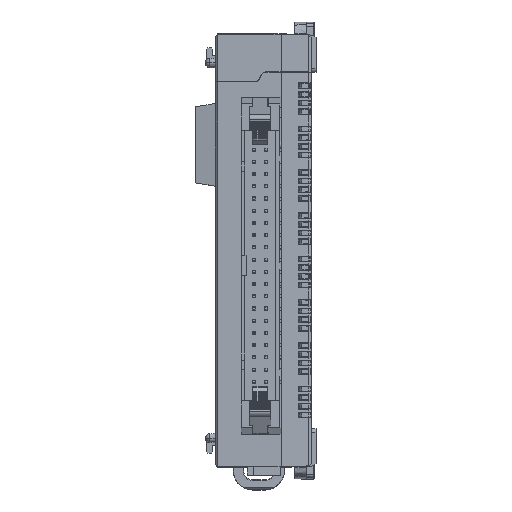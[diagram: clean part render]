
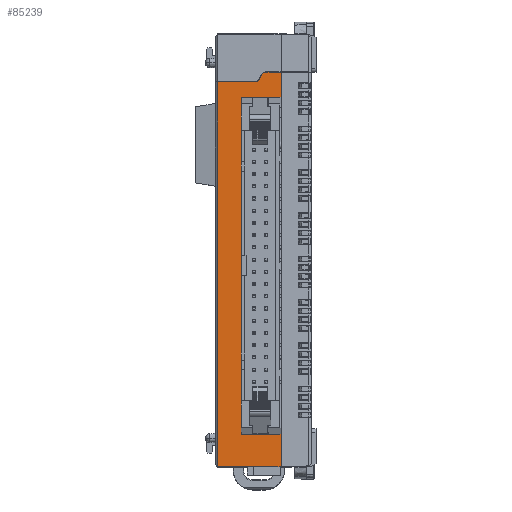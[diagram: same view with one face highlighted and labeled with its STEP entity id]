
A CAD part, top view. The second image highlights one B-rep face of the part: STEP entity #85239.
In plain terms, the highlighted planar face has unit normal (0, 0, 1).
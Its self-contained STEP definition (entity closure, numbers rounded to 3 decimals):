
#1650 = CARTESIAN_POINT ( 'NONE',  ( 0., -38.2, 30. ) ) ;
#3617 = EDGE_CURVE ( 'NONE', #80470, #52411, #66326, .T. ) ;
#4598 = ORIENTED_EDGE ( 'NONE', *, *, #100617, .F. ) ;
#4951 = LINE ( 'NONE', #94234, #23191 ) ;
#5284 = CARTESIAN_POINT ( 'NONE',  ( -5.432, 35., 30. ) ) ;
#5402 = DIRECTION ( 'NONE',  ( 1., 0., 0. ) ) ;
#5693 = ORIENTED_EDGE ( 'NONE', *, *, #78790, .T. ) ;
#6885 = CARTESIAN_POINT ( 'NONE',  ( 0., 45., 30. ) ) ;
#7320 = DIRECTION ( 'NONE',  ( 1., 0., 0. ) ) ;
#7991 = VECTOR ( 'NONE', #61157, 1000. ) ;
#8147 = AXIS2_PLACEMENT_3D ( 'NONE', #53951, #46444, #30182 ) ;
#9700 = ORIENTED_EDGE ( 'NONE', *, *, #66348, .F. ) ;
#10498 = LINE ( 'NONE', #34471, #33529 ) ;
#11552 = CARTESIAN_POINT ( 'NONE',  ( -13.2, -45., 30. ) ) ;
#12285 = LINE ( 'NONE', #84115, #19683 ) ;
#13231 = VECTOR ( 'NONE', #53928, 1000. ) ;
#13679 = DIRECTION ( 'NONE',  ( 0., -1., 0. ) ) ;
#16184 = VECTOR ( 'NONE', #7320, 1000. ) ;
#16339 = DIRECTION ( 'NONE',  ( 1., 0., 0. ) ) ;
#16925 = DIRECTION ( 'NONE',  ( -1., 0., 0. ) ) ;
#18003 = ORIENTED_EDGE ( 'NONE', *, *, #37161, .T. ) ;
#18390 = CARTESIAN_POINT ( 'NONE',  ( 0., 31.8, 30. ) ) ;
#19153 = DIRECTION ( 'NONE',  ( 0., -1., 0. ) ) ;
#19683 = VECTOR ( 'NONE', #54308, 1000. ) ;
#19706 = VERTEX_POINT ( 'NONE', #28635 ) ;
#21215 = VERTEX_POINT ( 'NONE', #73331 ) ;
#21488 = LINE ( 'NONE', #97674, #38458 ) ;
#21708 = ORIENTED_EDGE ( 'NONE', *, *, #36082, .F. ) ;
#21925 = FACE_OUTER_BOUND ( 'NONE', #44022, .T. ) ;
#22280 = CARTESIAN_POINT ( 'NONE',  ( -8.3, -38.2, 30. ) ) ;
#23191 = VECTOR ( 'NONE', #16925, 1000. ) ;
#24650 = CARTESIAN_POINT ( 'NONE',  ( -13.2, 35., 30. ) ) ;
#25082 = VERTEX_POINT ( 'NONE', #48922 ) ;
#25215 = LINE ( 'NONE', #65146, #48219 ) ;
#25969 = DIRECTION ( 'NONE',  ( 0., 0., 1. ) ) ;
#26078 = CARTESIAN_POINT ( 'NONE',  ( -3.989, 36.5, 30. ) ) ;
#26749 = ORIENTED_EDGE ( 'NONE', *, *, #32719, .F. ) ;
#27650 = ORIENTED_EDGE ( 'NONE', *, *, #83088, .T. ) ;
#28635 = CARTESIAN_POINT ( 'NONE',  ( -8.3, -38.2, 30. ) ) ;
#29122 = ORIENTED_EDGE ( 'NONE', *, *, #80335, .T. ) ;
#30182 = DIRECTION ( 'NONE',  ( 0., -1., 0. ) ) ;
#31818 = CARTESIAN_POINT ( 'NONE',  ( -13.2, -45., 30. ) ) ;
#32719 = EDGE_CURVE ( 'NONE', #19706, #80470, #80485, .T. ) ;
#33529 = VECTOR ( 'NONE', #66724, 1000. ) ;
#33843 = EDGE_CURVE ( 'NONE', #47040, #75405, #4951, .T. ) ;
#34471 = CARTESIAN_POINT ( 'NONE',  ( 0., 45., 30. ) ) ;
#34547 = CIRCLE ( 'NONE', #8147, 1. ) ;
#35173 = CARTESIAN_POINT ( 'NONE',  ( -8.3, 31.8, 30. ) ) ;
#36082 = EDGE_CURVE ( 'NONE', #75405, #19706, #97357, .T. ) ;
#37161 = EDGE_CURVE ( 'NONE', #75871, #63904, #89817, .T. ) ;
#37490 = ORIENTED_EDGE ( 'NONE', *, *, #3617, .F. ) ;
#38458 = VECTOR ( 'NONE', #5402, 1000. ) ;
#44022 = EDGE_LOOP ( 'NONE', ( #62365, #45183, #4598, #18003, #9700, #27650, #89648, #29122, #5693, #37490, #26749, #21708 ) ) ;
#45183 = ORIENTED_EDGE ( 'NONE', *, *, #81745, .F. ) ;
#46444 = DIRECTION ( 'NONE',  ( 0., 0., -1. ) ) ;
#46538 = DIRECTION ( 'NONE',  ( 0., 0., 1. ) ) ;
#46977 = CARTESIAN_POINT ( 'NONE',  ( 0., -45., 30. ) ) ;
#47040 = VERTEX_POINT ( 'NONE', #18390 ) ;
#48219 = VECTOR ( 'NONE', #95598, 1000. ) ;
#48922 = CARTESIAN_POINT ( 'NONE',  ( 0., 37., 30. ) ) ;
#49570 = LINE ( 'NONE', #31818, #13231 ) ;
#50386 = EDGE_CURVE ( 'NONE', #64344, #98532, #53340, .T. ) ;
#52411 = VERTEX_POINT ( 'NONE', #46977 ) ;
#53340 = LINE ( 'NONE', #57035, #89705 ) ;
#53395 = AXIS2_PLACEMENT_3D ( 'NONE', #96106, #25969, #19153 ) ;
#53928 = DIRECTION ( 'NONE',  ( 0., -1., 0. ) ) ;
#53951 = CARTESIAN_POINT ( 'NONE',  ( -5.432, 36., 30. ) ) ;
#54308 = DIRECTION ( 'NONE',  ( 1., 0., 0. ) ) ;
#57035 = CARTESIAN_POINT ( 'NONE',  ( -4.855, 35., 30. ) ) ;
#61157 = DIRECTION ( 'NONE',  ( 0., -1., 0. ) ) ;
#62365 = ORIENTED_EDGE ( 'NONE', *, *, #33843, .F. ) ;
#63904 = VERTEX_POINT ( 'NONE', #26078 ) ;
#64344 = VERTEX_POINT ( 'NONE', #24650 ) ;
#65146 = CARTESIAN_POINT ( 'NONE',  ( -3.7, 37., 30. ) ) ;
#66326 = LINE ( 'NONE', #6885, #7991 ) ;
#66348 = EDGE_CURVE ( 'NONE', #21215, #63904, #25215, .T. ) ;
#66724 = DIRECTION ( 'NONE',  ( 0., -1., 0. ) ) ;
#67919 = CARTESIAN_POINT ( 'NONE',  ( -3.123, 37., 30. ) ) ;
#69177 = CARTESIAN_POINT ( 'NONE',  ( -8.3, 31.8, 30. ) ) ;
#73331 = CARTESIAN_POINT ( 'NONE',  ( -4.566, 35.5, 30. ) ) ;
#75405 = VERTEX_POINT ( 'NONE', #35173 ) ;
#75871 = VERTEX_POINT ( 'NONE', #67919 ) ;
#78790 = EDGE_CURVE ( 'NONE', #100561, #52411, #12285, .T. ) ;
#80335 = EDGE_CURVE ( 'NONE', #64344, #100561, #49570, .T. ) ;
#80470 = VERTEX_POINT ( 'NONE', #1650 ) ;
#80485 = LINE ( 'NONE', #22280, #16184 ) ;
#81745 = EDGE_CURVE ( 'NONE', #25082, #47040, #10498, .T. ) ;
#83088 = EDGE_CURVE ( 'NONE', #21215, #98532, #34547, .T. ) ;
#83177 = PLANE ( 'NONE',  #96660 ) ;
#83899 = VECTOR ( 'NONE', #85046, 1000. ) ;
#84115 = CARTESIAN_POINT ( 'NONE',  ( -13.7, -45., 30. ) ) ;
#85046 = DIRECTION ( 'NONE',  ( 0., -1., 0. ) ) ;
#85214 = CARTESIAN_POINT ( 'NONE',  ( -13.7, 45., 30. ) ) ;
#85239 = ADVANCED_FACE ( 'NONE', ( #21925 ), #83177, .T. ) ;
#89648 = ORIENTED_EDGE ( 'NONE', *, *, #50386, .F. ) ;
#89705 = VECTOR ( 'NONE', #16339, 1000. ) ;
#89817 = CIRCLE ( 'NONE', #53395, 1. ) ;
#94234 = CARTESIAN_POINT ( 'NONE',  ( -8.3, 31.8, 30. ) ) ;
#95598 = DIRECTION ( 'NONE',  ( 0.5, 0.866, 0. ) ) ;
#96106 = CARTESIAN_POINT ( 'NONE',  ( -3.123, 36., 30. ) ) ;
#96660 = AXIS2_PLACEMENT_3D ( 'NONE', #85214, #46538, #13679 ) ;
#97357 = LINE ( 'NONE', #69177, #83899 ) ;
#97674 = CARTESIAN_POINT ( 'NONE',  ( 0., 37., 30. ) ) ;
#98532 = VERTEX_POINT ( 'NONE', #5284 ) ;
#100561 = VERTEX_POINT ( 'NONE', #11552 ) ;
#100617 = EDGE_CURVE ( 'NONE', #75871, #25082, #21488, .T. ) ;
